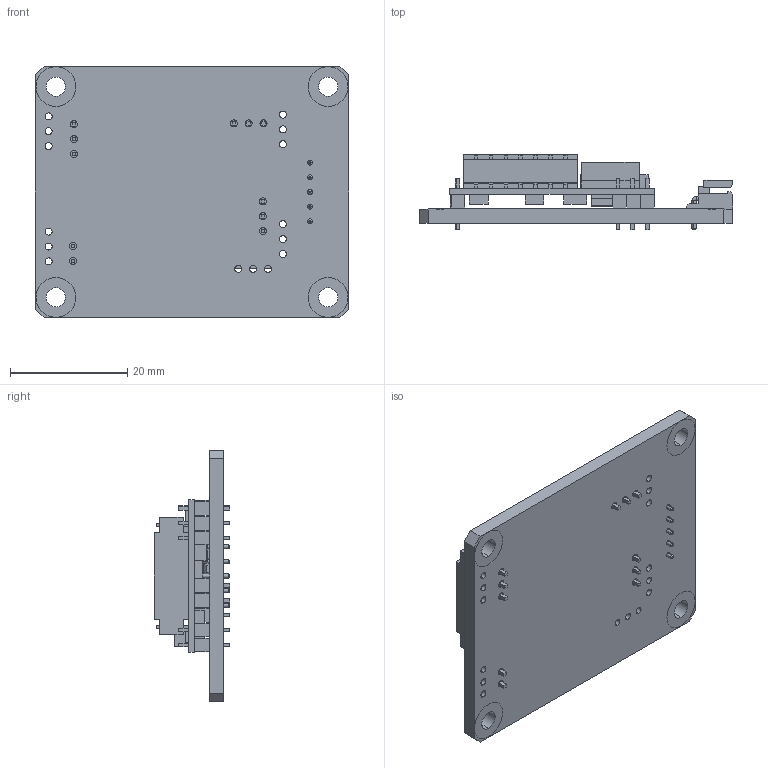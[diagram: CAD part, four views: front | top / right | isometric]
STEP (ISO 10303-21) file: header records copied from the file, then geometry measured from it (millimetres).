
FILE_DESCRIPTION (( 'STEP AP203' ), '1' );
FILE_NAME ('BSSP-F060W-T.STEP', '2016-07-23T17:06:06', ( 'gregory' ), ( '' ), 'SwSTEP 2.0', 'SolidWorks 2011', '' );
FILE_SCHEMA (( 'CONFIG_CONTROL_DESIGN' ));
Length unit declared in the file: millimetre
Products named in the file (1): BSSP-F060W-T
Bounding box: 53.5 x 12.89 x 43 mm (x, y, z)
Volume: 9495.4 mm3; surface area: 9195.8 mm2
Topology: 1 solids, 1 shells, 731 faces, 1905 edges, 1242 vertices
Faces by surface type: plane 588, cylinder 118, torus 20, bspline 5
Entity records: 23400 total; most frequent: CARTESIAN_POINT 5004, ORIENTED_EDGE 3790, DIRECTION 3620, EDGE_CURVE 1895, VECTOR 1584, LINE 1584, VERTEX_POINT 1242, AXIS2_PLACEMENT_3D 1018
